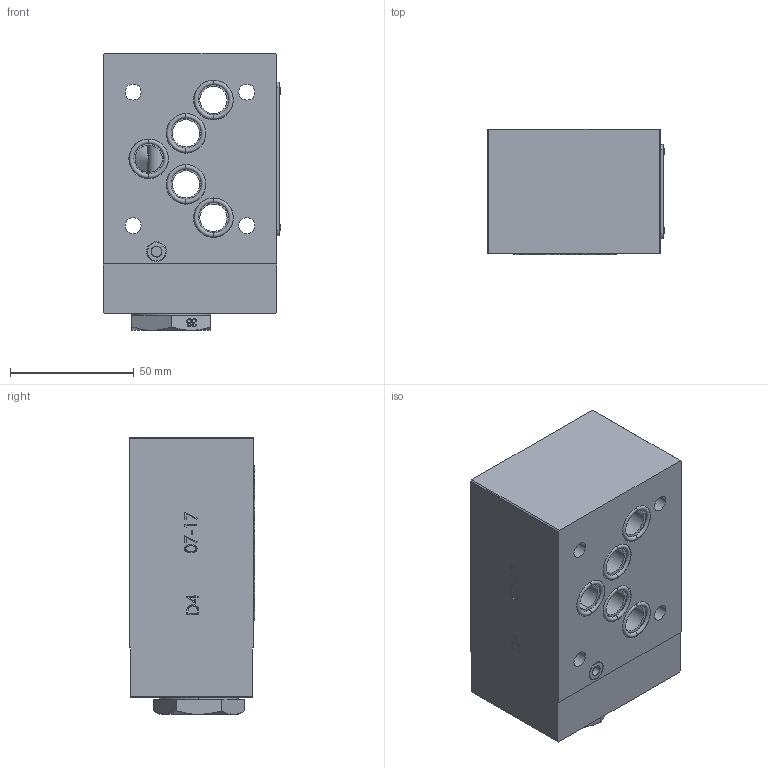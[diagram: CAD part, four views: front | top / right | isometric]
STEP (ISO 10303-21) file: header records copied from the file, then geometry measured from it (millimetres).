
FILE_DESCRIPTION (( 'STEP AP214' ), '1' );
FILE_NAME ('357-6-P-05.STEP', '2019-12-04T07:52:11', ( '' ), ( '' ), 'SwSTEP 2.0', 'SolidWorks 2018', '' );
FILE_SCHEMA (( 'AUTOMOTIVE_DESIGN' ));
Length unit declared in the file: millimetre
Products named in the file (1): 357-6-P-05
Bounding box: 71.66 x 50.58 x 111.8 mm (x, y, z)
Surface area: 50353.1 mm2 (no closed solid volume)
Topology: 0 solids, 33 shells, 719 faces, 3490 edges, 2698 vertices
Faces by surface type: plane 417, bspline 143, cylinder 96, cone 35, torus 20, sphere 8
Entity records: 57587 total; most frequent: CARTESIAN_POINT 24527, ORIENTED_EDGE 4720, DIRECTION 4148, EDGE_CURVE 3488, VERTEX_POINT 2698, VECTOR 2344, LINE 2344, EDGE_LOOP 934
